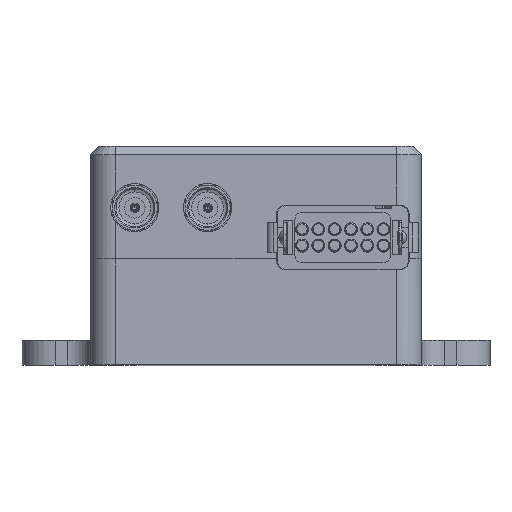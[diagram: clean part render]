
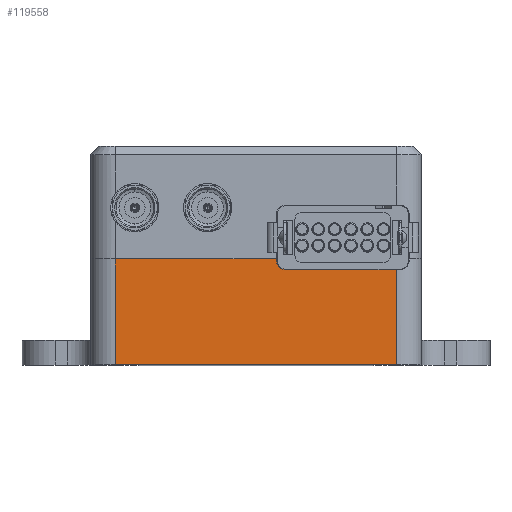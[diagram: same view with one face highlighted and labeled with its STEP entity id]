
A CAD part, top view. The second image highlights one B-rep face of the part: STEP entity #119558.
In plain terms, the highlighted planar face has unit normal (0, 0, 1).
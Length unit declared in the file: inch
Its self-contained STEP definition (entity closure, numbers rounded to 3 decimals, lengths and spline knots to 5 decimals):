
#5287 = VERTEX_POINT ( 'NONE', #182463 ) ;
#6177 = ORIENTED_EDGE ( 'NONE', *, *, #194818, .F. ) ;
#12733 = CARTESIAN_POINT ( 'NONE',  ( 0.08972, 0.28754, 0. ) ) ;
#14183 = CARTESIAN_POINT ( 'NONE',  ( 0.08972, 0.28754, 0. ) ) ;
#15404 = VERTEX_POINT ( 'NONE', #106388 ) ;
#23100 = EDGE_CURVE ( 'NONE', #15404, #101283, #169853, .T. ) ;
#29871 = CARTESIAN_POINT ( 'NONE',  ( -0.5, 0.32, 0. ) ) ;
#38972 = AXIS2_PLACEMENT_3D ( 'NONE', #157167, #204441, #199058 ) ;
#40653 = DIRECTION ( 'NONE',  ( 0., 1., 0. ) ) ;
#46999 = LINE ( 'NONE', #172024, #227438 ) ;
#58020 = EDGE_LOOP ( 'NONE', ( #137550, #191450, #126548, #203509, #131330, #247622, #6177 ) ) ;
#71650 = FACE_OUTER_BOUND ( 'NONE', #58020, .T. ) ;
#80681 = EDGE_CURVE ( 'NONE', #120736, #5287, #257728, .T. ) ;
#91446 = VECTOR ( 'NONE', #176374, 39.37008 ) ;
#95657 = DIRECTION ( 'NONE',  ( 1., 0., 0. ) ) ;
#97211 = VECTOR ( 'NONE', #40653, 39.37008 ) ;
#101283 = VERTEX_POINT ( 'NONE', #219150 ) ;
#106388 = CARTESIAN_POINT ( 'NONE',  ( 0.06117, 0.32, 0. ) ) ;
#112644 = CARTESIAN_POINT ( 'NONE',  ( -0.5, 0., 0. ) ) ;
#117437 = VECTOR ( 'NONE', #241400, 39.37008 ) ;
#119558 = ADVANCED_FACE ( 'NONE', ( #71650 ), #193740, .T. ) ;
#120736 = VERTEX_POINT ( 'NONE', #261245 ) ;
#121398 = LINE ( 'NONE', #12733, #171184 ) ;
#124190 = VERTEX_POINT ( 'NONE', #211638 ) ;
#126548 = ORIENTED_EDGE ( 'NONE', *, *, #146958, .T. ) ;
#131330 = ORIENTED_EDGE ( 'NONE', *, *, #222001, .T. ) ;
#137550 = ORIENTED_EDGE ( 'NONE', *, *, #244240, .F. ) ;
#137976 = CARTESIAN_POINT ( 'NONE',  ( 0.08972, 0.3161, 0. ) ) ;
#139885 = CARTESIAN_POINT ( 'NONE',  ( 0.06117, 0.3161, 0. ) ) ;
#142768 = CARTESIAN_POINT ( 'NONE',  ( 0.425, 0., 0. ) ) ;
#146958 = EDGE_CURVE ( 'NONE', #101283, #120736, #264404, .T. ) ;
#157167 = CARTESIAN_POINT ( 'NONE',  ( -0.5, 0., 0. ) ) ;
#167668 = VERTEX_POINT ( 'NONE', #14183 ) ;
#169853 = LINE ( 'NONE', #29871, #224145 ) ;
#170461 = VERTEX_POINT ( 'NONE', #139885 ) ;
#171184 = VECTOR ( 'NONE', #246137, 39.37008 ) ;
#172024 = CARTESIAN_POINT ( 'NONE',  ( 0.06117, 0.4539, 0. ) ) ;
#172498 = DIRECTION ( 'NONE',  ( -1., 0., 0. ) ) ;
#176374 = DIRECTION ( 'NONE',  ( 0., -1., 0. ) ) ;
#181435 = AXIS2_PLACEMENT_3D ( 'NONE', #137976, #265227, #95657 ) ;
#182463 = CARTESIAN_POINT ( 'NONE',  ( 0.425, 0., 0. ) ) ;
#187809 = EDGE_CURVE ( 'NONE', #167668, #124190, #121398, .T. ) ;
#191450 = ORIENTED_EDGE ( 'NONE', *, *, #23100, .T. ) ;
#193740 = PLANE ( 'NONE',  #38972 ) ;
#194818 = EDGE_CURVE ( 'NONE', #170461, #167668, #198791, .T. ) ;
#198791 = CIRCLE ( 'NONE', #181435, 0.02856 ) ;
#199058 = DIRECTION ( 'NONE',  ( 1., 0., 0. ) ) ;
#203509 = ORIENTED_EDGE ( 'NONE', *, *, #80681, .T. ) ;
#204441 = DIRECTION ( 'NONE',  ( 0., 0., 1. ) ) ;
#211638 = CARTESIAN_POINT ( 'NONE',  ( 0.425, 0.28754, 0. ) ) ;
#212628 = DIRECTION ( 'NONE',  ( 0., -1., 0. ) ) ;
#219150 = CARTESIAN_POINT ( 'NONE',  ( -0.425, 0.32, 0. ) ) ;
#222001 = EDGE_CURVE ( 'NONE', #5287, #124190, #245696, .T. ) ;
#223739 = CARTESIAN_POINT ( 'NONE',  ( -0.425, 0., 0. ) ) ;
#224145 = VECTOR ( 'NONE', #172498, 39.37008 ) ;
#227438 = VECTOR ( 'NONE', #212628, 39.37008 ) ;
#241400 = DIRECTION ( 'NONE',  ( 1., 0., 0. ) ) ;
#244240 = EDGE_CURVE ( 'NONE', #15404, #170461, #46999, .T. ) ;
#245696 = LINE ( 'NONE', #142768, #97211 ) ;
#246137 = DIRECTION ( 'NONE',  ( 1., 0., 0. ) ) ;
#247622 = ORIENTED_EDGE ( 'NONE', *, *, #187809, .F. ) ;
#257728 = LINE ( 'NONE', #112644, #117437 ) ;
#261245 = CARTESIAN_POINT ( 'NONE',  ( -0.425, 0., 0. ) ) ;
#264404 = LINE ( 'NONE', #223739, #91446 ) ;
#265227 = DIRECTION ( 'NONE',  ( 0., 0., 1. ) ) ;
